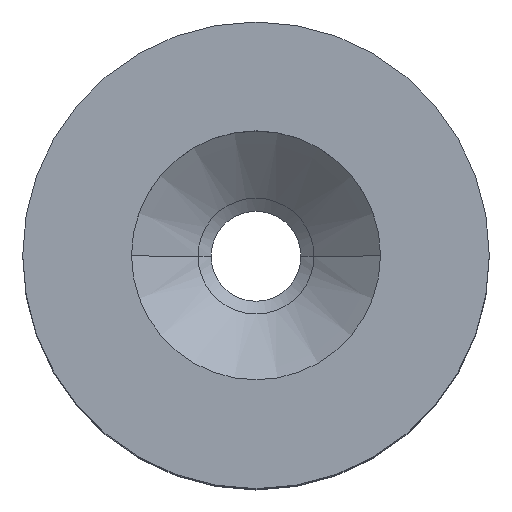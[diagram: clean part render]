
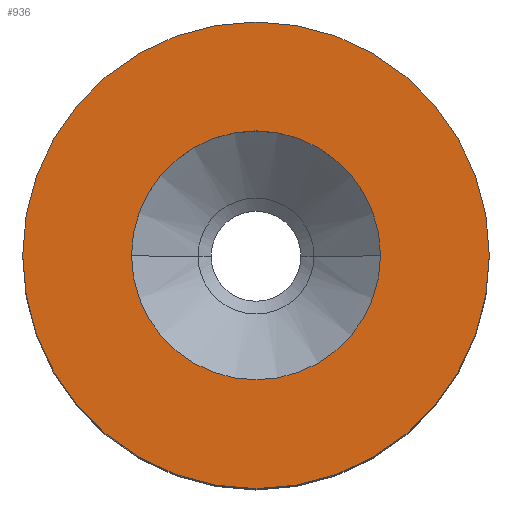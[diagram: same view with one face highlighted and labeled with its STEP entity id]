
A CAD part, top view. The second image highlights one B-rep face of the part: STEP entity #936.
In plain terms, the highlighted planar face has unit normal (0, 0, 1).
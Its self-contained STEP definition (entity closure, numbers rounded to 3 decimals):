
#11 = EDGE_CURVE ( 'NONE', #711, #57, #872, .T. ) ;
#28 = FACE_OUTER_BOUND ( 'NONE', #369, .T. ) ;
#57 = VERTEX_POINT ( 'NONE', #237 ) ;
#78 = DIRECTION ( 'NONE',  ( 1., 0., 0. ) ) ;
#128 = DIRECTION ( 'NONE',  ( 0., 0., 1. ) ) ;
#136 = EDGE_CURVE ( 'NONE', #57, #711, #178, .T. ) ;
#173 = DIRECTION ( 'NONE',  ( 0., 0., 1. ) ) ;
#178 = CIRCLE ( 'NONE', #251, 4. ) ;
#209 = CARTESIAN_POINT ( 'NONE',  ( -7.5, 0., 0. ) ) ;
#237 = CARTESIAN_POINT ( 'NONE',  ( 4., 0., 0. ) ) ;
#245 = VERTEX_POINT ( 'NONE', #209 ) ;
#251 = AXIS2_PLACEMENT_3D ( 'NONE', #325, #346, #338 ) ;
#277 = CARTESIAN_POINT ( 'NONE',  ( 0., 0., 0. ) ) ;
#279 = ORIENTED_EDGE ( 'NONE', *, *, #937, .T. ) ;
#325 = CARTESIAN_POINT ( 'NONE',  ( 0., 0., 0. ) ) ;
#330 = FACE_BOUND ( 'NONE', #844, .T. ) ;
#338 = DIRECTION ( 'NONE',  ( 1., 0., 0. ) ) ;
#346 = DIRECTION ( 'NONE',  ( 0., 0., 1. ) ) ;
#364 = CIRCLE ( 'NONE', #685, 7.5 ) ;
#369 = EDGE_LOOP ( 'NONE', ( #279, #572 ) ) ;
#395 = EDGE_CURVE ( 'NONE', #245, #554, #455, .T. ) ;
#455 = CIRCLE ( 'NONE', #498, 7.5 ) ;
#482 = ORIENTED_EDGE ( 'NONE', *, *, #11, .F. ) ;
#494 = DIRECTION ( 'NONE',  ( 1., 0., 0. ) ) ;
#498 = AXIS2_PLACEMENT_3D ( 'NONE', #507, #128, #916 ) ;
#507 = CARTESIAN_POINT ( 'NONE',  ( 0., 0., 0. ) ) ;
#554 = VERTEX_POINT ( 'NONE', #879 ) ;
#572 = ORIENTED_EDGE ( 'NONE', *, *, #395, .T. ) ;
#685 = AXIS2_PLACEMENT_3D ( 'NONE', #725, #745, #494 ) ;
#696 = AXIS2_PLACEMENT_3D ( 'NONE', #277, #173, #78 ) ;
#711 = VERTEX_POINT ( 'NONE', #892 ) ;
#725 = CARTESIAN_POINT ( 'NONE',  ( 0., 0., 0. ) ) ;
#734 = AXIS2_PLACEMENT_3D ( 'NONE', #737, #770, #757 ) ;
#737 = CARTESIAN_POINT ( 'NONE',  ( 0., 0., 0. ) ) ;
#745 = DIRECTION ( 'NONE',  ( 0., 0., 1. ) ) ;
#757 = DIRECTION ( 'NONE',  ( -1., 0., 0. ) ) ;
#770 = DIRECTION ( 'NONE',  ( 0., 0., -1. ) ) ;
#844 = EDGE_LOOP ( 'NONE', ( #889, #482 ) ) ;
#872 = CIRCLE ( 'NONE', #696, 4. ) ;
#879 = CARTESIAN_POINT ( 'NONE',  ( 7.5, 0., 0. ) ) ;
#889 = ORIENTED_EDGE ( 'NONE', *, *, #136, .F. ) ;
#892 = CARTESIAN_POINT ( 'NONE',  ( -4., 0., 0. ) ) ;
#916 = DIRECTION ( 'NONE',  ( 1., 0., 0. ) ) ;
#935 = PLANE ( 'NONE',  #734 ) ;
#936 = ADVANCED_FACE ( 'NONE', ( #330, #28 ), #935, .F. ) ;
#937 = EDGE_CURVE ( 'NONE', #554, #245, #364, .T. ) ;
